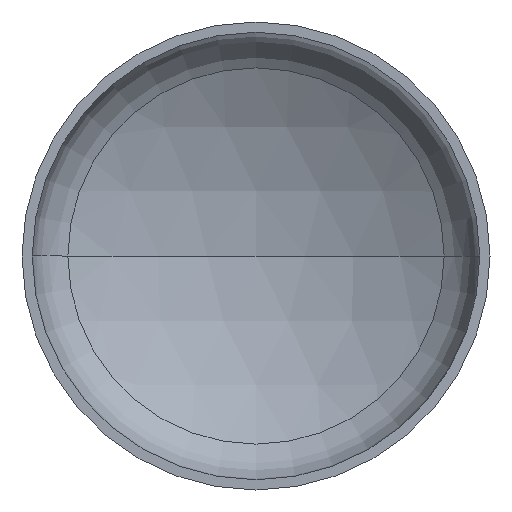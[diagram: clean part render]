
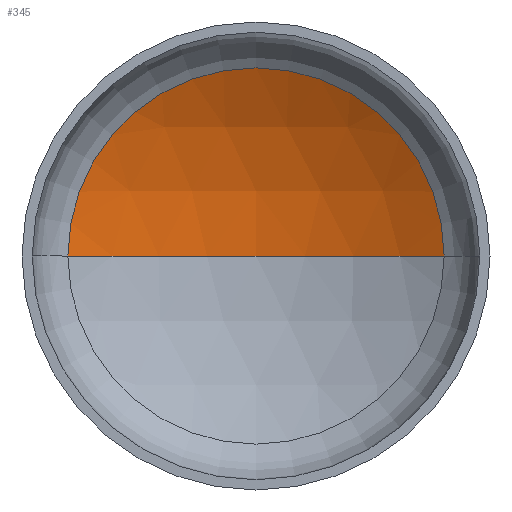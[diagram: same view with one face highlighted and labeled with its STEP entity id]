
A CAD part, front view. The second image highlights one B-rep face of the part: STEP entity #345.
In plain terms, the highlighted spherical face has radius 1280 mm.
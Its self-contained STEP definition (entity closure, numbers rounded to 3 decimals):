
#9 = AXIS2_PLACEMENT_3D ( 'NONE', #135, #136, #184 ) ;
#12 = AXIS2_PLACEMENT_3D ( 'NONE', #79, #372, #375 ) ;
#25 = EDGE_LOOP ( 'NONE', ( #132, #56, #121 ) ) ;
#38 = AXIS2_PLACEMENT_3D ( 'NONE', #355, #298, #92 ) ;
#45 = AXIS2_PLACEMENT_3D ( 'NONE', #177, #374, #240 ) ;
#56 = ORIENTED_EDGE ( 'NONE', *, *, #134, .T. ) ;
#79 = CARTESIAN_POINT ( 'NONE',  ( 0., -784.888, 0. ) ) ;
#92 = DIRECTION ( 'NONE',  ( -1., 0., 0. ) ) ;
#104 = EDGE_CURVE ( 'NONE', #185, #169, #368, .T. ) ;
#120 = FACE_OUTER_BOUND ( 'NONE', #25, .T. ) ;
#121 = ORIENTED_EDGE ( 'NONE', *, *, #104, .T. ) ;
#132 = ORIENTED_EDGE ( 'NONE', *, *, #350, .F. ) ;
#134 = EDGE_CURVE ( 'NONE', #166, #185, #377, .T. ) ;
#135 = CARTESIAN_POINT ( 'NONE',  ( 0., -784.888, 0. ) ) ;
#136 = DIRECTION ( 'NONE',  ( 0., 0., 1. ) ) ;
#166 = VERTEX_POINT ( 'NONE', #323 ) ;
#169 = VERTEX_POINT ( 'NONE', #392 ) ;
#177 = CARTESIAN_POINT ( 'NONE',  ( 0., 321.833, 0. ) ) ;
#184 = DIRECTION ( 'NONE',  ( 1., 0., 0. ) ) ;
#185 = VERTEX_POINT ( 'NONE', #248 ) ;
#223 = CIRCLE ( 'NONE', #9, 1280. ) ;
#240 = DIRECTION ( 'NONE',  ( 1., 0., 0. ) ) ;
#248 = CARTESIAN_POINT ( 'NONE',  ( 643.092, 321.833, 0. ) ) ;
#298 = DIRECTION ( 'NONE',  ( 0., 0., -1. ) ) ;
#323 = CARTESIAN_POINT ( 'NONE',  ( 0., 495.112, 0. ) ) ;
#345 = ADVANCED_FACE ( 'NONE', ( #120 ), #402, .F. ) ;
#350 = EDGE_CURVE ( 'NONE', #166, #169, #223, .T. ) ;
#355 = CARTESIAN_POINT ( 'NONE',  ( 0., -784.888, 0. ) ) ;
#368 = CIRCLE ( 'NONE', #45, 643.092 ) ;
#372 = DIRECTION ( 'NONE',  ( 0., 0., -1. ) ) ;
#374 = DIRECTION ( 'NONE',  ( 0., -1., 0. ) ) ;
#375 = DIRECTION ( 'NONE',  ( -1., 0., 0. ) ) ;
#377 = CIRCLE ( 'NONE', #38, 1280. ) ;
#392 = CARTESIAN_POINT ( 'NONE',  ( -643.092, 321.833, 0. ) ) ;
#402 = SPHERICAL_SURFACE ( 'NONE', #12, 1280. ) ;
